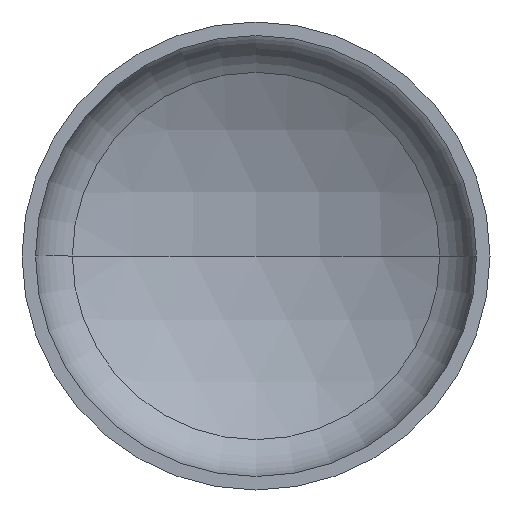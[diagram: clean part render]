
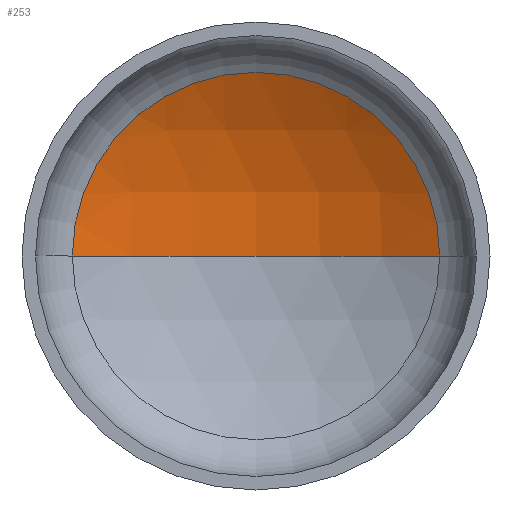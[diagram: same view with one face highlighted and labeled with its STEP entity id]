
A CAD part, front view. The second image highlights one B-rep face of the part: STEP entity #253.
In plain terms, the highlighted spherical face has radius 2720 mm.
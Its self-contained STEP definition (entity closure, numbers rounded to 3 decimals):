
#8 = AXIS2_PLACEMENT_3D ( 'NONE', #247, #375, #213 ) ;
#12 = EDGE_LOOP ( 'NONE', ( #153, #140, #41 ) ) ;
#19 = VERTEX_POINT ( 'NONE', #242 ) ;
#41 = ORIENTED_EDGE ( 'NONE', *, *, #319, .T. ) ;
#42 = CIRCLE ( 'NONE', #8, 2720. ) ;
#66 = SPHERICAL_SURFACE ( 'NONE', #269, 2720. ) ;
#74 = VERTEX_POINT ( 'NONE', #228 ) ;
#83 = AXIS2_PLACEMENT_3D ( 'NONE', #352, #354, #174 ) ;
#84 = VERTEX_POINT ( 'NONE', #330 ) ;
#107 = CARTESIAN_POINT ( 'NONE',  ( 0., 557.459, 0. ) ) ;
#140 = ORIENTED_EDGE ( 'NONE', *, *, #355, .T. ) ;
#153 = ORIENTED_EDGE ( 'NONE', *, *, #369, .F. ) ;
#174 = DIRECTION ( 'NONE',  ( 1., 0., 0. ) ) ;
#200 = DIRECTION ( 'NONE',  ( 0., -1., 0. ) ) ;
#206 = DIRECTION ( 'NONE',  ( -1., 0., 0. ) ) ;
#213 = DIRECTION ( 'NONE',  ( -1., 0., 0. ) ) ;
#219 = DIRECTION ( 'NONE',  ( 0., 0., -1. ) ) ;
#221 = CARTESIAN_POINT ( 'NONE',  ( 0., -1812.615, 0. ) ) ;
#228 = CARTESIAN_POINT ( 'NONE',  ( 0., 907.385, 0. ) ) ;
#235 = CIRCLE ( 'NONE', #83, 2720. ) ;
#242 = CARTESIAN_POINT ( 'NONE',  ( -1334.597, 557.459, 0. ) ) ;
#247 = CARTESIAN_POINT ( 'NONE',  ( 0., -1812.615, 0. ) ) ;
#253 = ADVANCED_FACE ( 'NONE', ( #345 ), #66, .F. ) ;
#254 = CIRCLE ( 'NONE', #373, 1334.597 ) ;
#265 = DIRECTION ( 'NONE',  ( 1., 0., 0. ) ) ;
#269 = AXIS2_PLACEMENT_3D ( 'NONE', #221, #219, #206 ) ;
#319 = EDGE_CURVE ( 'NONE', #84, #19, #254, .T. ) ;
#330 = CARTESIAN_POINT ( 'NONE',  ( 1334.597, 557.459, 0. ) ) ;
#345 = FACE_OUTER_BOUND ( 'NONE', #12, .T. ) ;
#352 = CARTESIAN_POINT ( 'NONE',  ( 0., -1812.615, 0. ) ) ;
#354 = DIRECTION ( 'NONE',  ( 0., 0., 1. ) ) ;
#355 = EDGE_CURVE ( 'NONE', #74, #84, #42, .T. ) ;
#369 = EDGE_CURVE ( 'NONE', #74, #19, #235, .T. ) ;
#373 = AXIS2_PLACEMENT_3D ( 'NONE', #107, #200, #265 ) ;
#375 = DIRECTION ( 'NONE',  ( 0., 0., -1. ) ) ;
